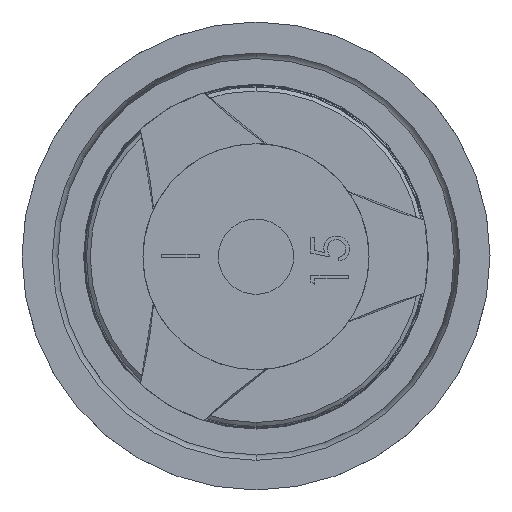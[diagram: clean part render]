
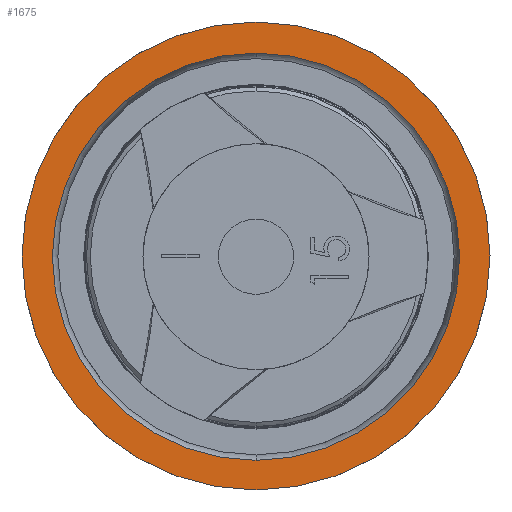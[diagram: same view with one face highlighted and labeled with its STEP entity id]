
A CAD part, left-side view. The second image highlights one B-rep face of the part: STEP entity #1675.
In plain terms, the highlighted planar face has unit normal (-1, 0, 0).
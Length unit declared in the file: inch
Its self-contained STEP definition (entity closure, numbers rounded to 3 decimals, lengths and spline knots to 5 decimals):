
#64 = AXIS2_PLACEMENT_3D ( 'NONE', #3653, #520, #4498 ) ;
#135 = ORIENTED_EDGE ( 'NONE', *, *, #2018, .T. ) ;
#191 = DIRECTION ( 'NONE',  ( 0., 0., -1. ) ) ;
#327 = VERTEX_POINT ( 'NONE', #1520 ) ;
#520 = DIRECTION ( 'NONE',  ( -1., 0., 0. ) ) ;
#526 = VERTEX_POINT ( 'NONE', #2898 ) ;
#770 = DIRECTION ( 'NONE',  ( 0., 0., -1. ) ) ;
#920 = FACE_OUTER_BOUND ( 'NONE', #3839, .T. ) ;
#936 = DIRECTION ( 'NONE',  ( -1., 0., 0. ) ) ;
#1164 = CARTESIAN_POINT ( 'NONE',  ( -1.30048, 0.0621, 0.26421 ) ) ;
#1166 = AXIS2_PLACEMENT_3D ( 'NONE', #1328, #936, #4957 ) ;
#1181 = EDGE_CURVE ( 'NONE', #327, #526, #4060, .T. ) ;
#1185 = DIRECTION ( 'NONE',  ( 0., 0., -1. ) ) ;
#1328 = CARTESIAN_POINT ( 'NONE',  ( -1.30048, 0.0621, 0.26188 ) ) ;
#1358 = FACE_BOUND ( 'NONE', #4374, .T. ) ;
#1401 = CIRCLE ( 'NONE', #3060, 0.7765 ) ;
#1520 = CARTESIAN_POINT ( 'NONE',  ( -1.30048, 0.0621, -0.41386 ) ) ;
#1675 = ADVANCED_FACE ( 'NONE', ( #1358, #920 ), #4073, .T. ) ;
#1989 = VERTEX_POINT ( 'NONE', #3536 ) ;
#2018 = EDGE_CURVE ( 'NONE', #1989, #2771, #1401, .T. ) ;
#2423 = CARTESIAN_POINT ( 'NONE',  ( -1.30048, 0.0621, 0.26421 ) ) ;
#2525 = DIRECTION ( 'NONE',  ( -1., 0., 0. ) ) ;
#2680 = AXIS2_PLACEMENT_3D ( 'NONE', #4528, #2525, #191 ) ;
#2771 = VERTEX_POINT ( 'NONE', #2943 ) ;
#2804 = EDGE_CURVE ( 'NONE', #526, #327, #4262, .T. ) ;
#2898 = CARTESIAN_POINT ( 'NONE',  ( -1.30048, 0.0621, 0.93761 ) ) ;
#2943 = CARTESIAN_POINT ( 'NONE',  ( -1.30048, 0.0621, -0.51229 ) ) ;
#3035 = ORIENTED_EDGE ( 'NONE', *, *, #2804, .F. ) ;
#3060 = AXIS2_PLACEMENT_3D ( 'NONE', #2423, #3235, #1185 ) ;
#3133 = ORIENTED_EDGE ( 'NONE', *, *, #1181, .F. ) ;
#3185 = CIRCLE ( 'NONE', #4925, 0.7765 ) ;
#3235 = DIRECTION ( 'NONE',  ( -1., 0., 0. ) ) ;
#3489 = DIRECTION ( 'NONE',  ( -1., 0., 0. ) ) ;
#3536 = CARTESIAN_POINT ( 'NONE',  ( -1.30048, 0.0621, 1.04071 ) ) ;
#3653 = CARTESIAN_POINT ( 'NONE',  ( -1.30048, 0.73783, 0.26188 ) ) ;
#3839 = EDGE_LOOP ( 'NONE', ( #135, #4065 ) ) ;
#3931 = EDGE_CURVE ( 'NONE', #2771, #1989, #3185, .T. ) ;
#4060 = CIRCLE ( 'NONE', #1166, 0.67573 ) ;
#4065 = ORIENTED_EDGE ( 'NONE', *, *, #3931, .T. ) ;
#4073 = PLANE ( 'NONE',  #64 ) ;
#4262 = CIRCLE ( 'NONE', #2680, 0.67573 ) ;
#4374 = EDGE_LOOP ( 'NONE', ( #3133, #3035 ) ) ;
#4498 = DIRECTION ( 'NONE',  ( 0., 0., -1. ) ) ;
#4528 = CARTESIAN_POINT ( 'NONE',  ( -1.30048, 0.0621, 0.26188 ) ) ;
#4925 = AXIS2_PLACEMENT_3D ( 'NONE', #1164, #3489, #770 ) ;
#4957 = DIRECTION ( 'NONE',  ( 0., 0., -1. ) ) ;
